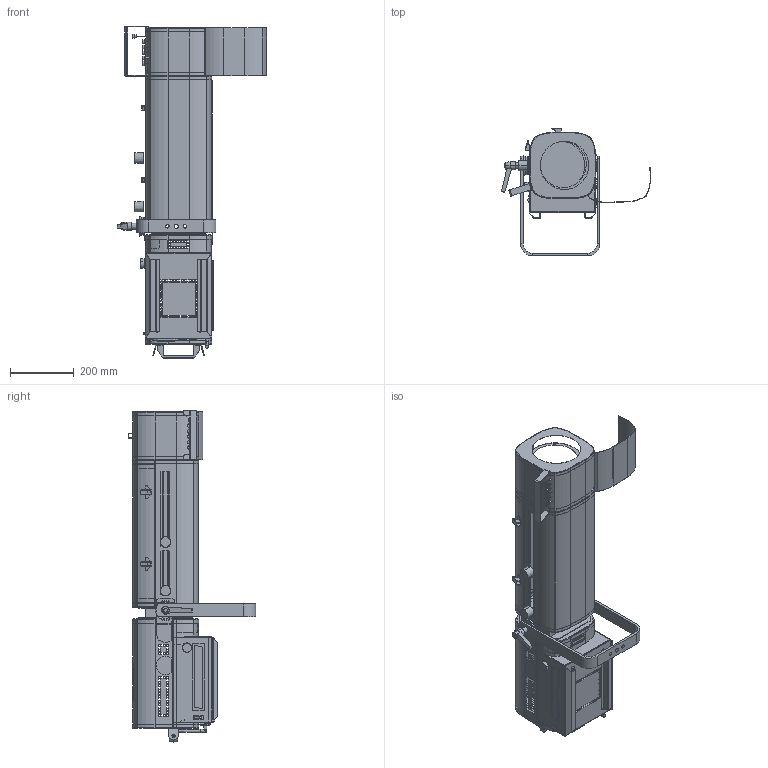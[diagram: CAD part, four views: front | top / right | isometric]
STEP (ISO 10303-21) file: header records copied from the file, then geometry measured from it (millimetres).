
FILE_DESCRIPTION (( 'STEP AP203' ), '1' );
FILE_NAME ('_310949 Roxie.STEP', '2015-12-15T12:47:26', ( '' ), ( '' ), 'SwSTEP 2.0', 'SolidWorks 2015', '' );
FILE_SCHEMA (( 'CONFIG_CONTROL_DESIGN' ));
Length unit declared in the file: millimetre
Products named in the file (1): _310949 Roxie
Bounding box: 468.14 x 400 x 1043 mm (x, y, z)
Surface area: 2194748 mm2 (no closed solid volume)
Topology: 0 solids, 121 shells, 1640 faces, 6341 edges, 4480 vertices
Faces by surface type: plane 1150, cylinder 407, torus 51, cone 26, bspline 6
Entity records: 66978 total; most frequent: CARTESIAN_POINT 13516, DIRECTION 10861, ORIENTED_EDGE 9658, EDGE_CURVE 6339, LINE 4875, VECTOR 4875, VERTEX_POINT 4480, AXIS2_PLACEMENT_3D 2993
